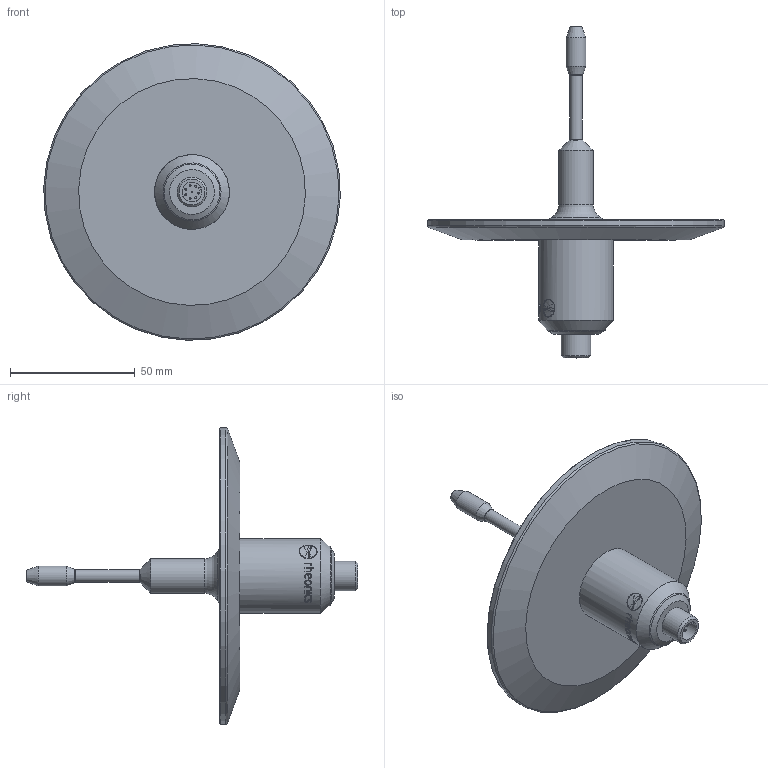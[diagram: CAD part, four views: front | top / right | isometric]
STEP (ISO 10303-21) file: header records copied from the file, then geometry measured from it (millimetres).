
FILE_DESCRIPTION(/* description */ ('Unknown'),/* implementation_level */ '2;1');
FILE_NAME(/* name */ 'SRV-HS-X3-40T',/* time_stamp */ '2024-01-15T13:20:31-05:00',/* author */ ('Unknown'),/* organization */ ('Unknown'),/* preprocessor_version */ 'ST-DEVELOPER v16.7',/* originating_system */ 'Solid Edge',/* authorisation */ 'Unknown');
FILE_SCHEMA (('CONFIG_CONTROL_DESIGN'));
Length unit declared in the file: millimetre
Products named in the file (1): SRV-HS-X3-40T
Bounding box: 118.93 x 133.13 x 118.93 mm (x, y, z)
Volume: 107922.7 mm3; surface area: 30083.1 mm2
Topology: 1 solids, 1 shells, 172 faces, 438 edges, 281 vertices
Faces by surface type: bspline 71, plane 37, cylinder 37, cone 13, sphere 8, torus 6
Full cylindrical faces by diameter (mm): 0.8 x8, 5.019 x1, 8 x2, 12 x1, 13.9 x1, 30 x1, 119 x1
Entity records: 9147 total; most frequent: CARTESIAN_POINT 4576, ORIENTED_EDGE 740, DIRECTION 476, EDGE_CURVE 370, VERTEX_POINT 263, EDGE_LOOP 235, FACE_BOUND 235, AXIS2_PLACEMENT_3D 175
